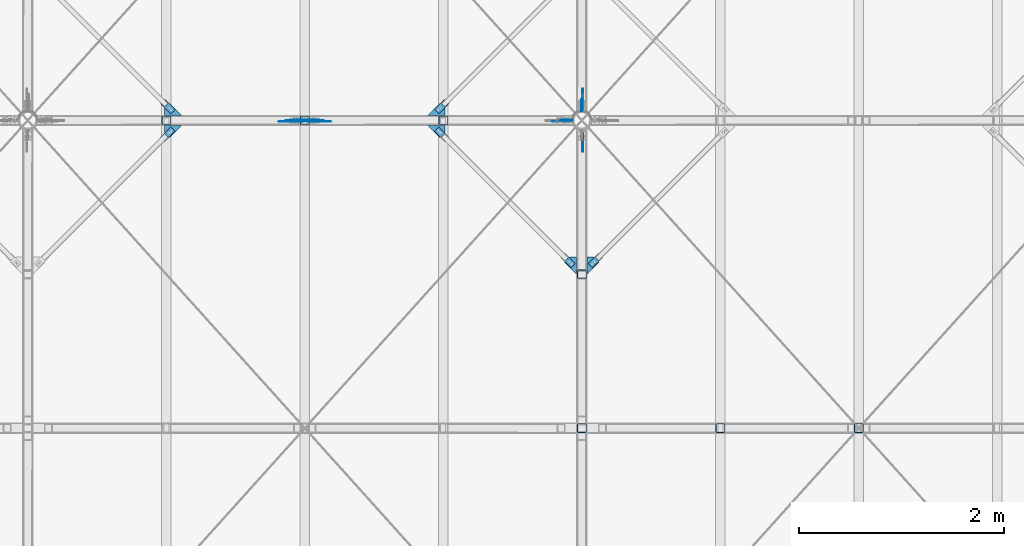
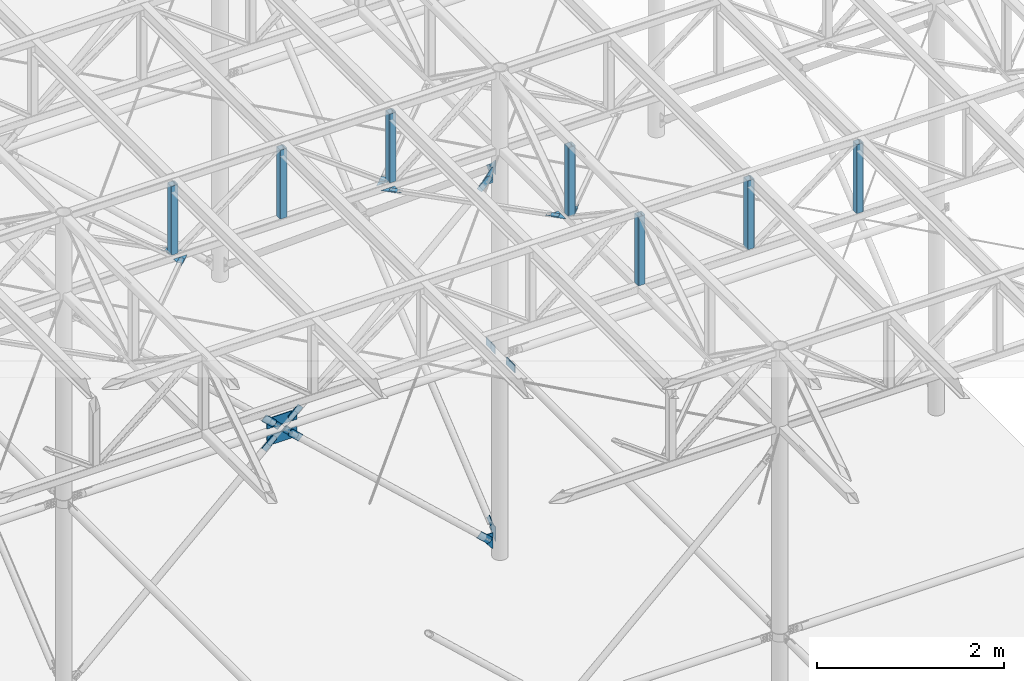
# One storey, part 81 of 132: 40 discrete accessories, 22 elements without a shape of their own.
"""IFC2X3 building model written with IfcOpenShell, lengths in millimetres."""

import ifcopenshell
import ifcopenshell.guid

model = None  # the IFC model being written
_history = None  # IfcOwnerHistory: only IFC2X3 demands one
_inside = {}  # id of a spatial element -> (the spatial element, [elements in it])
_under = {}  # id of a project, library or spatial element -> (it, [spatial elements below it])
_declared = {}  # id of a project -> (the project, [libraries it declares])
_typed = {}  # id of a type object -> (the type object, [elements of that type])
_made_of = {}  # id of a material, layer set ... -> (it, [elements and type objects made of it])


def new_model(schema):
    """Start an empty IFC model of exactly this schema.

    Asked for "IFC4X3", IfcOpenShell would pick the latest addendum, in which some entities
    have other attributes; the version numbers below select the first issue.
    IFC2X3 requires an IfcOwnerHistory on every rooted entity: one is made here for all.
    """
    global model, _history
    if schema == "IFC4X3":
        model = ifcopenshell.file(schema_version=(4, 3, 0, 0))
    else:
        model = ifcopenshell.file(schema=schema)
    _inside.clear()
    _under.clear()
    _declared.clear()
    _typed.clear()
    _made_of.clear()
    _history = None
    if model.schema == "IFC2X3":
        org = make("IfcOrganization", Name="unknown")
        user = make(
            "IfcPersonAndOrganization",
            ThePerson=make("IfcPerson", FamilyName="unknown"),
            TheOrganization=org,
        )
        app = make(
            "IfcApplication",
            ApplicationDeveloper=org,
            Version="unknown",
            ApplicationFullName="unknown",
            ApplicationIdentifier="unknown",
        )
        _history = make(
            "IfcOwnerHistory",
            OwningUser=user,
            OwningApplication=app,
            ChangeAction="ADDED",
            CreationDate=0,
        )
    return model


def make(cls, **values):
    """One entity of the class cls with the attributes given. An attribute that is None is left unset."""
    return model.create_entity(
        cls, **{name: value for name, value in values.items() if value is not None}
    )


def rooted(cls, **values):
    """An entity with a GlobalId (a new one), such as an element, a storey or a relation."""
    return make(cls, GlobalId=ifcopenshell.guid.new(), OwnerHistory=_history, **values)


def si_unit(unit_type, name, prefix=None):
    """IfcSIUnit, for example si_unit("LENGTHUNIT", "METRE", prefix="MILLI")."""
    return make("IfcSIUnit", UnitType=unit_type, Prefix=prefix, Name=name)


def assignment(units):
    """IfcUnitAssignment: the units of a project."""
    return None if units is None else make("IfcUnitAssignment", Units=units)


def point(xyz):
    """IfcCartesianPoint."""
    return None if xyz is None else make("IfcCartesianPoint", Coordinates=xyz)


def direction(xyz):
    """IfcDirection."""
    return None if xyz is None else make("IfcDirection", DirectionRatios=xyz)


def frame(location, z_axis=None, x_axis=None):
    """IfcAxis2Placement3D, a coordinate frame: its origin and axes. An axis left out is left unset."""
    return make(
        "IfcAxis2Placement3D",
        Location=point(location),
        Axis=direction(z_axis),
        RefDirection=direction(x_axis),
    )


def frame_2d(location, x_axis=None):
    """IfcAxis2Placement2D, a coordinate frame in the plane: its origin and x axis."""
    return make(
        "IfcAxis2Placement2D", Location=point(location), RefDirection=direction(x_axis)
    )


def origin_with_axes():
    """The frame at (0, 0, 0) with the z axis (0, 0, 1) and the x axis (1, 0, 0) written out."""
    return frame((0.0, 0.0, 0.0), z_axis=(0.0, 0.0, 1.0), x_axis=(1.0, 0.0, 0.0))


def origin_2d_with_axis():
    """The frame at (0, 0) in the plane with the x axis (1, 0) written out."""
    return frame_2d((0.0, 0.0), x_axis=(1.0, 0.0))


def place(relative_to, where):
    """IfcLocalPlacement: puts the frame where relative to a parent placement (None: the world)."""
    return make(
        "IfcLocalPlacement", PlacementRelTo=relative_to, RelativePlacement=where
    )


def context(
    kind, dimensions, precision=None, world=None, true_north=None, identifier=None
):
    """IfcGeometricRepresentationContext, for example the 3D "Model" context."""
    return make(
        "IfcGeometricRepresentationContext",
        ContextIdentifier=identifier,
        ContextType=kind,
        CoordinateSpaceDimension=dimensions,
        Precision=precision,
        WorldCoordinateSystem=world,
        TrueNorth=true_north,
    )


def subcontext(parent, identifier, kind, view, scale=None):
    """IfcGeometricRepresentationSubContext, for example "Body" below "Model"."""
    return make(
        "IfcGeometricRepresentationSubContext",
        ContextIdentifier=identifier,
        ContextType=kind,
        ParentContext=parent,
        TargetScale=scale,
        TargetView=view,
    )


def project(units=None, contexts=None):
    """IfcProject with its units and contexts."""
    return rooted(
        "IfcProject",
        Name="project",
        RepresentationContexts=contexts,
        UnitsInContext=assignment(units),
    )


def spatial(cls, under=None, at=None, **own):
    """A site, building, storey or space (cls), placed at a placement, below another one or the project."""
    s = rooted(cls, ObjectPlacement=at, **own)
    if under is not None:
        _under.setdefault(under.id(), (under, []))[1].append(s)
    return s


def polyline(points):
    """IfcPolyline through the points."""
    return make("IfcPolyline", Points=[point(p) for p in points])


def profile(cls, at=None, kind="AREA", **sizes):
    """A parametric profile (cls). Its sizes go by their IFC names, for example OverallWidth=200.0."""
    return make(cls, ProfileType=kind, Position=at, **sizes)


def rectangle(**sizes):
    """IfcRectangleProfileDef."""
    return profile("IfcRectangleProfileDef", **sizes)


def hollow_rectangle(**sizes):
    """IfcRectangleHollowProfileDef."""
    return profile("IfcRectangleHollowProfileDef", **sizes)


def outline(outer, holes=None, kind="AREA"):
    """IfcArbitraryClosedProfileDef: a profile drawn as a closed curve; with holes, ...WithVoids."""
    if holes is None:
        return make("IfcArbitraryClosedProfileDef", ProfileType=kind, OuterCurve=outer)
    return make(
        "IfcArbitraryProfileDefWithVoids",
        ProfileType=kind,
        OuterCurve=outer,
        InnerCurves=holes,
    )


def extrude(swept, where, along, depth):
    """IfcExtrudedAreaSolid: the profile swept, set in the frame where, extruded along a direction by depth."""
    return make(
        "IfcExtrudedAreaSolid",
        SweptArea=swept,
        Position=where,
        ExtrudedDirection=direction(along),
        Depth=depth,
    )


def boolean(op, a, b):
    """IfcBooleanResult of two solids."""
    return make("IfcBooleanResult", Operator=op, FirstOperand=a, SecondOperand=b)


def clip(a, b, op="DIFFERENCE"):
    """IfcBooleanClippingResult: the solid a cut by the half space b."""
    return make(
        "IfcBooleanClippingResult", Operator=op, FirstOperand=a, SecondOperand=b
    )


def halfspace(plane, agree):
    """IfcHalfSpaceSolid: all space on one side of the plane z = 0 of the frame plane."""
    return make(
        "IfcHalfSpaceSolid",
        BaseSurface=make("IfcPlane", Position=plane),
        AgreementFlag=agree,
    )


def shape(context_of_items, identifier, shape_type, items):
    """IfcShapeRepresentation: the items that make up one representation, for example the "Body"."""
    return make(
        "IfcShapeRepresentation",
        ContextOfItems=context_of_items,
        RepresentationIdentifier=identifier,
        RepresentationType=shape_type,
        Items=items,
    )


def material(Name=None, Category=None):
    """IfcMaterial."""
    return make("IfcMaterial", Name=Name, Category=Category)


def made_of(thing, what):
    """Note that an element or type object is made of a material, layer set ...; save() writes the relation."""
    if what is not None:
        _made_of.setdefault(what.id(), (what, []))[1].append(thing)
    return thing


def type_object(cls, material=None, **own):
    """A type object (cls), such as IfcWallType, which elements share."""
    return made_of(rooted(cls, **own), material)


def element(
    cls,
    number,
    at=None,
    inside=None,
    cuts=None,
    type_object=None,
    material=None,
    context=None,
    identifier="Body",
    shape_type=None,
    held_by="IfcProductDefinitionShape",
    body=None,
    shapes=None,
    **own,
):
    """One element of the class cls, such as IfcWall. Its Tag is "e" and its number.

    at: its placement. inside: the storey or other place that contains it. cuts: it is an
    opening in that element (IfcRelVoidsElement). A single representation is given by context,
    identifier, shape_type and body (its items); several are given by shapes. held_by: the class
    of the entity that holds the representations. save() writes the other relations.
    """
    e = rooted(cls, Tag="e%d" % number, ObjectPlacement=at, **own)
    if body is not None:
        shapes = [shape(context, identifier, shape_type, body)]
    if shapes is not None:
        e.Representation = make(held_by, Representations=shapes)
    if inside is not None:
        _inside.setdefault(inside.id(), (inside, []))[1].append(e)
    if cuts is not None:
        rooted(
            "IfcRelVoidsElement", RelatingBuildingElement=cuts, RelatedOpeningElement=e
        )
    if type_object is not None:
        _typed.setdefault(type_object.id(), (type_object, []))[1].append(e)
    return made_of(e, material)


def aggregate(whole, parts):
    """IfcRelAggregates: a whole, such as a stair, and the parts it consists of."""
    return rooted("IfcRelAggregates", RelatingObject=whole, RelatedObjects=parts)


def save(model, path):
    """Write the relations noted so far, then the file.

    IfcRelAggregates (storeys below a building ...), IfcRelContainedInSpatialStructure (elements
    in a storey), IfcRelDefinesByType, IfcRelAssociatesMaterial and IfcRelDeclares: one each for
    every whole, place, type object, material and project.
    """
    for whole, parts in _under.values():
        aggregate(whole, parts)
    for where, things in _inside.values():
        rooted(
            "IfcRelContainedInSpatialStructure",
            RelatedElements=things,
            RelatingStructure=where,
        )
    for kind, things in _typed.values():
        rooted("IfcRelDefinesByType", RelatedObjects=things, RelatingType=kind)
    for what, things in _made_of.values():
        rooted("IfcRelAssociatesMaterial", RelatedObjects=things, RelatingMaterial=what)
    for by, libraries in _declared.values():
        rooted("IfcRelDeclares", RelatingContext=by, RelatedDefinitions=libraries)
    model.write(path)


model = new_model("IFC2X3")

# Units and contexts
model_context = context("Model", 3, precision=1e-05, world=origin_with_axes())
body_context = subcontext(model_context, "Body", "Model", "MODEL_VIEW")
ifc_project = project(units=[si_unit("LENGTHUNIT", "METRE", prefix="MILLI"), si_unit("AREAUNIT", "SQUARE_METRE"), si_unit("VOLUMEUNIT", "CUBIC_METRE"), si_unit("MASSUNIT", "GRAM", prefix="KILO"), si_unit("TIMEUNIT", "SECOND"), si_unit("PLANEANGLEUNIT", "RADIAN"), si_unit("SOLIDANGLEUNIT", "STERADIAN"), si_unit("THERMODYNAMICTEMPERATUREUNIT", "DEGREE_CELSIUS"), si_unit("LUMINOUSINTENSITYUNIT", "LUMEN")], contexts=[model_context])

# Site, building, storey
site_placement = place(None, origin_with_axes())
site = spatial("IfcSite", under=ifc_project, at=site_placement, Name="Budowa", CompositionType="ELEMENT")
building_placement = place(site_placement, origin_with_axes())
building = spatial("IfcBuilding", under=site, at=building_placement, Name="Undefined", CompositionType="ELEMENT")
storey_placement = place(building_placement, origin_with_axes())
storey = spatial("IfcBuildingStorey", under=building, at=storey_placement, Name="Undefined", CompositionType="ELEMENT", Elevation=0.0)

# Assembly, discrete accessory
assembly_1_placement = place(storey_placement, origin_with_axes())
assembly_1 = element("IfcElementAssembly", 1, at=assembly_1_placement, inside=storey, Name="Steel Assembly", AssemblyPlace="NOTDEFINED", PredefinedType="RIGID_FRAME")
ifc_material = material(Name="STEEL/S235")
discrete_accessory_type_1 = type_object("IfcDiscreteAccessoryType", Name="BLACHA")
discrete_accessory_1_placement = place(assembly_1_placement, frame((14832.9999999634, 12120.951207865, 7723.25167813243), z_axis=(0.0, 0.639165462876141, -0.769069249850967), x_axis=(0.0, 0.769069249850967, 0.639165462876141)))
discrete_accessory_1 = element("IfcDiscreteAccessory", 2, at=discrete_accessory_1_placement, type_object=discrete_accessory_type_1, material=ifc_material, Name="BLACHA", ObjectType="BL8*86", context=body_context, shape_type="CSG", body=[
    boolean("DIFFERENCE", boolean("DIFFERENCE", extrude(rectangle(XDim=8.0, YDim=86.0, at=origin_2d_with_axis()), frame((190.000000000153, -3.63797880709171e-12, 3.30513394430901e-13), z_axis=(-1.0, 0.0, 0.0), x_axis=(0.0, -1.0, 0.0)), (0.0, 0.0, 1.0), 190.0), extrude(outline(polyline([(0.0, 0.0), (20.0000000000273, -3.63797880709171e-12), (5.45696821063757e-12, 20.0000000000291), (0.0, 0.0)])), frame((0.0, 6.50000013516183, -43.0), z_axis=(0.0, -1.0, 0.0), x_axis=(1.0, 0.0, 0.0)), (0.0, 0.0, 1.0), 13.0)), extrude(outline(polyline([(0.0, 0.0), (20.0000000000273, -3.63797880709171e-12), (5.45696821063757e-12, 20.0000000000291), (0.0, 0.0)])), frame((3.63797880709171e-12, -6.49999986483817, 43.0), z_axis=(0.0, 1.0, 0.0), x_axis=(1.0, 0.0, 0.0)), (0.0, 0.0, 1.0), 13.0)),
])
aggregate(assembly_1, [discrete_accessory_1])

assembly_2_placement = place(storey_placement, origin_with_axes())
assembly_2 = element("IfcElementAssembly", 3, at=assembly_2_placement, inside=storey, Name="Steel Assembly", AssemblyPlace="NOTDEFINED", PredefinedType="RIGID_FRAME")
discrete_accessory_2_placement = place(assembly_2_placement, frame((14825.000002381, 12088.9000000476, 7811.00054931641), z_axis=(1.0, 0.0, 0.0), x_axis=(0.0, 0.0, -1.0)))
discrete_accessory_2 = element("IfcDiscreteAccessory", 4, at=discrete_accessory_2_placement, type_object=discrete_accessory_type_1, material=ifc_material, Name="BLACHA", ObjectType="BL8*126", context=body_context, shape_type="SweptSolid", body=[
    extrude(outline(polyline([(0.0, 0.0), (188.000686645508, 0.0), (188.000686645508, 10.0), (60.999870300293, 126.000648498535), (3.18323145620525e-09, 76.0014114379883), (0.0, 0.0)])), frame((0.0, 0.0, -4.0), z_axis=(0.0, 0.0, 1.0), x_axis=(1.0, 0.0, 0.0)), (0.0, 0.0, 1.0), 8.0),
])

assembly_3_placement = place(storey_placement, origin_with_axes())
assembly_3 = element("IfcElementAssembly", 5, at=assembly_3_placement, inside=storey, Name="Steel Assembly", AssemblyPlace="NOTDEFINED", PredefinedType="RIGID_FRAME")
discrete_accessory_3_placement = place(assembly_3_placement, frame((14832.9999999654, 12120.9512117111, 12508.7489949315), z_axis=(0.0, -0.63916553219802, -0.769069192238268), x_axis=(0.0, 0.769069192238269, -0.639165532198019)))
discrete_accessory_3 = element("IfcDiscreteAccessory", 6, at=discrete_accessory_3_placement, type_object=discrete_accessory_type_1, material=ifc_material, Name="BLACHA", ObjectType="BL8*86", context=body_context, shape_type="CSG", body=[
    boolean("DIFFERENCE", boolean("DIFFERENCE", extrude(rectangle(XDim=8.0, YDim=86.0, at=origin_2d_with_axis()), frame((190.000000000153, -3.63797880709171e-12, 3.30513394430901e-13), z_axis=(-1.0, 0.0, 0.0), x_axis=(0.0, -1.0, 0.0)), (0.0, 0.0, 1.0), 190.0), extrude(outline(polyline([(0.0, 0.0), (20.0000000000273, -3.63797880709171e-12), (5.45696821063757e-12, 20.0000000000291), (0.0, 0.0)])), frame((0.0, 6.50000013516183, -43.0), z_axis=(0.0, -1.0, 0.0), x_axis=(1.0, 0.0, 0.0)), (0.0, 0.0, 1.0), 13.0)), extrude(outline(polyline([(0.0, 0.0), (20.0000000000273, -3.63797880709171e-12), (5.45696821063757e-12, 20.0000000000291), (0.0, 0.0)])), frame((3.63797880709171e-12, -6.49999986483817, 43.0), z_axis=(0.0, 1.0, 0.0), x_axis=(1.0, 0.0, 0.0)), (0.0, 0.0, 1.0), 13.0)),
])
aggregate(assembly_3, [discrete_accessory_3])

# Discrete accessory
discrete_accessory_4_placement = place(assembly_2_placement, frame((14825.000002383, 12088.9000000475, 12608.9999313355), z_axis=(1.0, 0.0, 0.0), x_axis=(0.0, 0.0, -1.0)))
discrete_accessory_4 = element("IfcDiscreteAccessory", 7, at=discrete_accessory_4_placement, type_object=discrete_accessory_type_1, material=ifc_material, Name="BLACHA", ObjectType="BL8*126", context=body_context, shape_type="SweptSolid", body=[
    extrude(outline(polyline([(0.0, 0.0), (187.999725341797, 0.0), (187.999725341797, 76.0014114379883), (126.999855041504, 126.000648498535), (0.0, 10.0), (0.0, 0.0)])), frame((0.0, 0.0, -4.0), z_axis=(0.0, 0.0, 1.0), x_axis=(1.0, 0.0, 0.0)), (0.0, 0.0, 1.0), 8.0),
])

discrete_accessory_5_placement = place(assembly_2_placement, frame((14736.1000002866, 11999.9990001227, 12407.0002670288), z_axis=(0.0, -1.0, 0.0), x_axis=(0.0, 0.0, 1.0)))
discrete_accessory_5 = element("IfcDiscreteAccessory", 8, at=discrete_accessory_5_placement, type_object=discrete_accessory_type_1, material=ifc_material, Name="BLACHA", ObjectType="BL8*126", context=body_context, shape_type="SweptSolid", body=[
    extrude(outline(polyline([(0.0, 0.0), (203.000061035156, 0.0), (203.000061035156, 10.0), (58.0005645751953, 125.999824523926), (-1.72803993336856e-10, 72.998420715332), (0.0, 0.0)])), frame((0.0, 0.0, -4.0), z_axis=(0.0, 0.0, 1.0), x_axis=(1.0, 0.0, 0.0)), (0.0, 0.0, 1.0), 8.0),
])

discrete_accessory_6_placement = place(assembly_2_placement, frame((14736.1000003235, 11999.9990001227, 7622.0004196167), z_axis=(0.0, -1.0, 0.0), x_axis=(0.0, 0.0, 1.0)))
discrete_accessory_6 = element("IfcDiscreteAccessory", 9, at=discrete_accessory_6_placement, type_object=discrete_accessory_type_1, material=ifc_material, Name="BLACHA", ObjectType="BL8*126", context=body_context, shape_type="SweptSolid", body=[
    extrude(outline(polyline([(0.0, 0.0), (203.000061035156, 0.0), (203.000076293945, 72.998420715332), (145.000457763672, 125.999824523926), (0.0, 10.0), (0.0, 0.0)])), frame((0.0, 0.0, -4.0), z_axis=(0.0, 0.0, 1.0), x_axis=(1.0, 0.0, 0.0)), (0.0, 0.0, 1.0), 8.0),
])

aggregate(assembly_2, [discrete_accessory_2, discrete_accessory_4, discrete_accessory_5, discrete_accessory_6])

# Assembly, discrete accessory
assembly_4_placement = place(storey_placement, origin_with_axes())
assembly_4 = element("IfcElementAssembly", 10, at=assembly_4_placement, inside=storey, Name="Steel Assembly", AssemblyPlace="NOTDEFINED", PredefinedType="RIGID_FRAME")
discrete_accessory_7_placement = place(assembly_4_placement, frame((12051.7643931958, 11989.999997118, 9989.80782337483), z_axis=(0.0, -1.0, 0.0), x_axis=(0.0395984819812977, 0.0, 0.999215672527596)))
discrete_accessory_7 = element("IfcDiscreteAccessory", 11, at=discrete_accessory_7_placement, type_object=discrete_accessory_type_1, material=ifc_material, Name="BLACHA", ObjectType="BL8*86", context=body_context, shape_type="SweptSolid", body=[
    extrude(outline(polyline([(0.0, 0.0), (28.2842712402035, 3.27418092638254e-11), (60.8111839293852, 32.5269126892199), (60.8111839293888, 60.8111839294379), (-59.3969688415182, 181.019332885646), (-120.20815277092, 120.208152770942), (0.0, 0.0)])), frame((0.0, 0.0, -4.0), z_axis=(0.0, 0.0, 1.0), x_axis=(1.0, 0.0, 0.0)), (0.0, 0.0, 1.0), 8.0),
])
aggregate(assembly_4, [discrete_accessory_7])

assembly_5_placement = place(storey_placement, origin_with_axes())
assembly_5 = element("IfcElementAssembly", 12, at=assembly_5_placement, inside=storey, Name="Steel Assembly", AssemblyPlace="NOTDEFINED", PredefinedType="RIGID_FRAME")
discrete_accessory_8_placement = place(assembly_5_placement, frame((12256.5937293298, 11989.999997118, 10052.9793451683), z_axis=(0.0, -1.0, 0.0), x_axis=(-0.999215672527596, 0.0, -0.0395984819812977)))
discrete_accessory_8 = element("IfcDiscreteAccessory", 13, at=discrete_accessory_8_placement, type_object=discrete_accessory_type_1, material=ifc_material, Name="BLACHA", ObjectType="BL8*86", context=body_context, shape_type="SweptSolid", body=[
    extrude(outline(polyline([(0.0, 0.0), (28.2842712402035, 3.27418092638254e-11), (60.8111839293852, 32.5269126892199), (60.8111839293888, 60.8111839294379), (-59.3969688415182, 181.019332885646), (-120.20815277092, 120.208152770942), (0.0, 0.0)])), frame((0.0, 0.0, -4.0), z_axis=(0.0, 0.0, 1.0), x_axis=(1.0, 0.0, 0.0)), (0.0, 0.0, 1.0), 8.0),
])

assembly_6_placement = place(storey_placement, origin_with_axes())
assembly_6 = element("IfcElementAssembly", 14, at=assembly_6_placement, inside=storey, Name="Steel Assembly", AssemblyPlace="NOTDEFINED", PredefinedType="RIGID_FRAME")
discrete_accessory_9_placement = place(assembly_6_placement, frame((12311.4051663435, 11997.999997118, 10071.5503790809), z_axis=(0.0, -1.0, 0.0), x_axis=(-1.0, 0.0, 0.0)))
discrete_accessory_9 = element("IfcDiscreteAccessory", 15, at=discrete_accessory_9_placement, type_object=discrete_accessory_type_1, material=ifc_material, Name="BLACHA", ObjectType="BL8*133", context=body_context, shape_type="SweptSolid", body=[
    extrude(outline(polyline([(0.0, 0.0), (372.807678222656, 0.0), (372.807678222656, 62.396900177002), (307.666687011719, 132.913940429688), (65.1409759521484, 132.913940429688), (0.0, 62.396900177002), (0.0, 0.0)])), frame((0.0, 0.0, -4.0), z_axis=(0.0, 0.0, 1.0), x_axis=(1.0, 0.0, 0.0)), (0.0, 0.0, 1.0), 8.0),
])

assembly_7_placement = place(storey_placement, origin_with_axes())
assembly_7 = element("IfcElementAssembly", 16, at=assembly_7_placement, inside=storey, Name="Steel Assembly", AssemblyPlace="NOTDEFINED", PredefinedType="RIGID_FRAME")
discrete_accessory_10_placement = place(assembly_7_placement, frame((11993.4089381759, 11989.9999968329, 10179.0214130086), z_axis=(0.0, -1.0, 0.0), x_axis=(0.999215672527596, 0.0, 0.0395984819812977)))
discrete_accessory_10 = element("IfcDiscreteAccessory", 17, at=discrete_accessory_10_placement, type_object=discrete_accessory_type_1, material=ifc_material, Name="BLACHA", ObjectType="BL8*86", context=body_context, shape_type="SweptSolid", body=[
    extrude(outline(polyline([(0.0, 0.0), (28.2842712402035, 3.27418092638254e-11), (60.8111839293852, 32.5269126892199), (60.8111839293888, 60.8111839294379), (-59.3969688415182, 181.019332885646), (-120.20815277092, 120.208152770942), (0.0, 0.0)])), frame((0.0, 0.0, -4.0), z_axis=(0.0, 0.0, 1.0), x_axis=(1.0, 0.0, 0.0)), (0.0, 0.0, 1.0), 8.0),
])
aggregate(assembly_7, [discrete_accessory_10])

assembly_8_placement = place(storey_placement, origin_with_axes())
assembly_8 = element("IfcElementAssembly", 18, at=assembly_8_placement, inside=storey, Name="Steel Assembly", AssemblyPlace="NOTDEFINED", PredefinedType="RIGID_FRAME")
discrete_accessory_11_placement = place(assembly_8_placement, frame((12198.2382742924, 11989.9999968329, 10242.192930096), z_axis=(0.0, -1.0, 0.0), x_axis=(-0.0395984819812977, 0.0, -0.999215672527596)))
discrete_accessory_11 = element("IfcDiscreteAccessory", 19, at=discrete_accessory_11_placement, type_object=discrete_accessory_type_1, material=ifc_material, Name="BLACHA", ObjectType="BL8*86", context=body_context, shape_type="SweptSolid", body=[
    extrude(outline(polyline([(0.0, 0.0), (28.2842712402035, 3.27418092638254e-11), (60.8111839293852, 32.5269126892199), (60.8111839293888, 60.8111839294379), (-59.3969688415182, 181.019332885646), (-120.20815277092, 120.208152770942), (0.0, 0.0)])), frame((0.0, 0.0, -4.0), z_axis=(0.0, 0.0, 1.0), x_axis=(1.0, 0.0, 0.0)), (0.0, 0.0, 1.0), 8.0),
])

# Discrete accessory
discrete_accessory_12_placement = place(assembly_6_placement, frame((11938.5974989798, 11997.9999968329, 10160.4503767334), z_axis=(0.0, -1.0, 0.0), x_axis=(1.0, 0.0, 0.0)))
discrete_accessory_12 = element("IfcDiscreteAccessory", 20, at=discrete_accessory_12_placement, type_object=discrete_accessory_type_1, material=ifc_material, Name="BLACHA", ObjectType="BL8*133", context=body_context, shape_type="SweptSolid", body=[
    extrude(outline(polyline([(0.0, 0.0), (372.807678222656, 0.0), (372.807678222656, 62.396900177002), (307.666687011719, 132.913940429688), (65.1409759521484, 132.913940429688), (0.0, 62.396900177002), (0.0, 0.0)])), frame((0.0, 0.0, -4.0), z_axis=(0.0, 0.0, 1.0), x_axis=(1.0, 0.0, 0.0)), (0.0, 0.0, 1.0), 8.0),
])

aggregate(assembly_6, [discrete_accessory_9, discrete_accessory_12])

discrete_accessory_13_placement = place(assembly_8_placement, frame((14702.6899626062, 11989.9999976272, 12497.1715521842), z_axis=(-0.678551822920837, 0.0, 0.734552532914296), x_axis=(-0.734552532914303, 0.0, -0.67855182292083)))
discrete_accessory_13 = element("IfcDiscreteAccessory", 21, at=discrete_accessory_13_placement, type_object=discrete_accessory_type_1, material=ifc_material, Name="BLACHA", ObjectType="BL8*86", context=body_context, shape_type="CSG", body=[
    boolean("DIFFERENCE", boolean("DIFFERENCE", extrude(rectangle(XDim=8.0, YDim=86.0, at=origin_2d_with_axis()), frame((190.000000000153, -3.63797880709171e-12, 3.30513394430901e-13), z_axis=(-1.0, 0.0, 0.0), x_axis=(0.0, -1.0, 0.0)), (0.0, 0.0, 1.0), 190.0), extrude(outline(polyline([(0.0, 0.0), (20.0000000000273, -3.63797880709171e-12), (5.45696821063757e-12, 20.0000000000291), (0.0, 0.0)])), frame((-1.81898940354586e-12, -6.50000242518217, -42.9999999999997), z_axis=(0.0, 1.0, 0.0), x_axis=(0.0, 0.0, 1.0)), (0.0, 0.0, 1.0), 13.0)), extrude(outline(polyline([(0.0, 0.0), (20.0000000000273, -3.63797880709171e-12), (5.45696821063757e-12, 20.0000000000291), (0.0, 0.0)])), frame((-1.81898940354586e-12, 6.49999757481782, 42.9999999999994), z_axis=(0.0, -1.0, 0.0), x_axis=(0.0, 0.0, -1.0)), (0.0, 0.0, 1.0), 13.0)),
])

aggregate(assembly_8, [discrete_accessory_11, discrete_accessory_13])

discrete_accessory_14_placement = place(assembly_5_placement, frame((14702.689963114, 11989.9999973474, 7734.82920317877), z_axis=(0.678551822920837, 0.0, 0.734552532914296), x_axis=(-0.734552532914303, 0.0, 0.67855182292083)))
discrete_accessory_14 = element("IfcDiscreteAccessory", 22, at=discrete_accessory_14_placement, type_object=discrete_accessory_type_1, material=ifc_material, Name="BLACHA", ObjectType="BL8*86", context=body_context, shape_type="CSG", body=[
    boolean("DIFFERENCE", boolean("DIFFERENCE", extrude(rectangle(XDim=8.0, YDim=86.0, at=origin_2d_with_axis()), frame((190.000000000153, -3.63797880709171e-12, 3.30513394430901e-13), z_axis=(-1.0, 0.0, 0.0), x_axis=(0.0, -1.0, 0.0)), (0.0, 0.0, 1.0), 190.0), extrude(outline(polyline([(0.0, 0.0), (20.0000000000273, -3.63797880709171e-12), (5.45696821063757e-12, 20.0000000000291), (0.0, 0.0)])), frame((-1.81898940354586e-12, 6.49999757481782, 42.9999999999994), z_axis=(0.0, -1.0, 0.0), x_axis=(0.0, 0.0, -1.0)), (0.0, 0.0, 1.0), 13.0)), extrude(outline(polyline([(0.0, 0.0), (20.0000000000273, -3.63797880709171e-12), (5.45696821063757e-12, 20.0000000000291), (0.0, 0.0)])), frame((-1.81898940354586e-12, -6.50000242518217, -42.9999999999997), z_axis=(0.0, 1.0, 0.0), x_axis=(0.0, 0.0, 1.0)), (0.0, 0.0, 1.0), 13.0)),
])

aggregate(assembly_5, [discrete_accessory_8, discrete_accessory_14])

# Assembly, discrete accessory
assembly_9_placement = place(storey_placement, origin_with_axes())
assembly_9 = element("IfcElementAssembly", 23, at=assembly_9_placement, inside=storey, Name="Steel Assembly", AssemblyPlace="NOTDEFINED", PredefinedType="RIGID_FRAME")
discrete_accessory_15_placement = place(assembly_9_placement, frame((14832.9999969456, 12127.907905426, 10116.0003779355), z_axis=(-1.0, 0.0, 0.0), x_axis=(0.0, 1.0, 0.0)))
discrete_accessory_15 = element("IfcDiscreteAccessory", 24, at=discrete_accessory_15_placement, type_object=discrete_accessory_type_1, material=ifc_material, Name="BLACHA", ObjectType="BL8*100", context=body_context, shape_type="SweptSolid", body=[
    extrude(outline(polyline([(0.0, 50.0), (180.0, 50.0), (180.0, -50.0), (0.0, -50.0), (0.0, 50.0)])), frame((0.0, 0.0, -4.0), z_axis=(0.0, 0.0, 1.0), x_axis=(1.0, 0.0, 0.0)), (0.0, 0.0, 1.0), 8.0),
])
aggregate(assembly_9, [discrete_accessory_15])

assembly_10_placement = place(storey_placement, origin_with_axes())
assembly_10 = element("IfcElementAssembly", 25, at=assembly_10_placement, inside=storey, Name="Steel Assembly", AssemblyPlace="NOTDEFINED", PredefinedType="RIGID_FRAME")
discrete_accessory_16_placement = place(assembly_10_placement, frame((14824.9999969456, 12097.9956434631, 10166.0003762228), z_axis=(1.0, 0.0, 0.0), x_axis=(0.0, 0.0, -1.0)))
discrete_accessory_16 = element("IfcDiscreteAccessory", 26, at=discrete_accessory_16_placement, type_object=discrete_accessory_type_1, material=ifc_material, Name="BLACHA", ObjectType="BL8*90", context=body_context, shape_type="SweptSolid", body=[
    extrude(outline(polyline([(0.0, 0.0), (100.0, 0.0), (100.0, 89.9122619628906), (0.0, 89.9122619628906), (0.0, 0.0)])), frame((0.0, 0.0, -4.0), z_axis=(0.0, 0.0, 1.0), x_axis=(1.0, 0.0, 0.0)), (0.0, 0.0, 1.0), 8.0),
])
aggregate(assembly_10, [discrete_accessory_16])

assembly_11_placement = place(storey_placement, origin_with_axes())
assembly_11 = element("IfcElementAssembly", 27, at=assembly_11_placement, inside=storey, Name="Steel Assembly", AssemblyPlace="NOTDEFINED", PredefinedType="RIGID_FRAME")
discrete_accessory_17_placement = place(assembly_11_placement, frame((14832.9999972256, 11872.0920947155, 10116.0003779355), z_axis=(-1.0, 0.0, 0.0), x_axis=(0.0, -1.0, 0.0)))
discrete_accessory_17 = element("IfcDiscreteAccessory", 28, at=discrete_accessory_17_placement, type_object=discrete_accessory_type_1, material=ifc_material, Name="BLACHA", ObjectType="BL8*100", context=body_context, shape_type="SweptSolid", body=[
    extrude(outline(polyline([(180.0, -50.0), (0.0, -50.0), (0.0, 50.0), (180.0, 50.0), (180.0, -50.0)])), frame((0.0, 0.0, -4.0), z_axis=(0.0, 0.0, 1.0), x_axis=(1.0, 0.0, 0.0)), (0.0, 0.0, 1.0), 8.0),
])
aggregate(assembly_11, [discrete_accessory_17])

assembly_12_placement = place(storey_placement, origin_with_axes())
assembly_12 = element("IfcElementAssembly", 29, at=assembly_12_placement, inside=storey, Name="Steel Assembly", AssemblyPlace="NOTDEFINED", PredefinedType="RIGID_FRAME")
discrete_accessory_18_placement = place(assembly_12_placement, frame((12156.0118626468, 11991.9999977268, 10087.3540261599), z_axis=(-0.67855182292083, 0.0, -0.734552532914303), x_axis=(0.734552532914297, 0.0, -0.678551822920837)))
discrete_accessory_18 = element("IfcDiscreteAccessory", 30, at=discrete_accessory_18_placement, type_object=discrete_accessory_type_1, material=ifc_material, Name="BLACHA", ObjectType="BL8*69", context=body_context, shape_type="SweptSolid", body=[
    extrude(rectangle(XDim=8.0, YDim=69.0, at=origin_2d_with_axis()), frame((149.999999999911, 0.0, 0.0), z_axis=(-1.0, 0.0, 0.0), x_axis=(0.0, -1.0, 0.0)), (0.0, 0.0, 1.0), 150.0),
])
aggregate(assembly_12, [discrete_accessory_18])

assembly_13_placement = place(storey_placement, origin_with_axes())
assembly_13 = element("IfcElementAssembly", 31, at=assembly_13_placement, inside=storey, Name="Steel Assembly", AssemblyPlace="NOTDEFINED", PredefinedType="RIGID_FRAME")
discrete_accessory_19_placement = place(assembly_13_placement, frame((12181.529211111, 11999.9999977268, 10128.256469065), z_axis=(0.0, -1.0, 0.0), x_axis=(-0.734552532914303, 0.0, -0.67855182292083)))
discrete_accessory_19 = element("IfcDiscreteAccessory", 32, at=discrete_accessory_19_placement, type_object=discrete_accessory_type_1, material=ifc_material, Name="BLACHA", ObjectType="BL8*87", context=body_context, shape_type="SweptSolid", body=[
    extrude(outline(polyline([(0.0, 0.0), (87.1330947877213, 3.63797880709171e-12), (78.7522506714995, 105.573730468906), (-3.63797880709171e-12, 99.3220748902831), (0.0, 0.0)])), frame((0.0, 0.0, -4.0), z_axis=(0.0, 0.0, 1.0), x_axis=(1.0, 0.0, 0.0)), (0.0, 0.0, 1.0), 8.0),
])

assembly_14_placement = place(storey_placement, origin_with_axes())
assembly_14 = element("IfcElementAssembly", 33, at=assembly_14_placement, inside=storey, Name="Steel Assembly", AssemblyPlace="NOTDEFINED", PredefinedType="RIGID_FRAME")
discrete_accessory_20_placement = place(assembly_14_placement, frame((12093.9908069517, 11991.9999975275, 10144.6467300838), z_axis=(0.678551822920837, 0.0, 0.734552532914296), x_axis=(-0.734552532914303, 0.0, 0.67855182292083)))
discrete_accessory_20 = element("IfcDiscreteAccessory", 34, at=discrete_accessory_20_placement, type_object=discrete_accessory_type_1, material=ifc_material, Name="BLACHA", ObjectType="BL8*69", context=body_context, shape_type="SweptSolid", body=[
    extrude(rectangle(XDim=8.0, YDim=69.0, at=origin_2d_with_axis()), frame((149.999999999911, 0.0, 0.0), z_axis=(-1.0, 0.0, 0.0), x_axis=(0.0, -1.0, 0.0)), (0.0, 0.0, 1.0), 150.0),
])
aggregate(assembly_14, [discrete_accessory_20])

# Discrete accessory
discrete_accessory_21_placement = place(assembly_13_placement, frame((12068.4734567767, 11999.9999975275, 10103.7442853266), z_axis=(0.0, -1.0, 0.0), x_axis=(0.734552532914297, 0.0, 0.678551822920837)))
discrete_accessory_21 = element("IfcDiscreteAccessory", 35, at=discrete_accessory_21_placement, type_object=discrete_accessory_type_1, material=ifc_material, Name="BLACHA", ObjectType="BL8*87", context=body_context, shape_type="SweptSolid", body=[
    extrude(outline(polyline([(0.0, 0.0), (87.1330947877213, 3.63797880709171e-12), (78.7522506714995, 105.573730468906), (-3.63797880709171e-12, 99.3220748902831), (0.0, 0.0)])), frame((0.0, 0.0, -4.0), z_axis=(0.0, 0.0, 1.0), x_axis=(1.0, 0.0, 0.0)), (0.0, 0.0, 1.0), 8.0),
])

aggregate(assembly_13, [discrete_accessory_19, discrete_accessory_21])

# Assembly, discrete accessory
assembly_15_placement = place(storey_placement, origin_with_axes())
assembly_15 = element("IfcElementAssembly", 36, at=assembly_15_placement, inside=storey, Name="Steel Assembly", AssemblyPlace="NOTDEFINED", PredefinedType="RIGID_FRAME")
discrete_accessory_22_placement = place(assembly_15_placement, frame((10719.3786418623, 12162.9949513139, 12830.0), z_axis=(0.0, 0.0, 1.0), x_axis=(0.707106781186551, -0.707106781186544, 0.0)))
discrete_accessory_22 = element("IfcDiscreteAccessory", 37, at=discrete_accessory_22_placement, type_object=discrete_accessory_type_1, material=ifc_material, Name="BLACHA", ObjectType="BL6*60", context=body_context, shape_type="SweptSolid", body=[
    extrude(outline(polyline([(0.0, 0.0), (139.99999999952, -6.2755134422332e-10), (139.99999999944, 59.9999999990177), (0.0, 60.0), (-8.00355337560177e-11, 54.9999999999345), (49.9999999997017, 54.9999999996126), (49.9999999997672, 4.99999999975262), (-8.73114913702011e-11, 5.00000000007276), (0.0, 0.0)])), frame((0.0, 0.0, -3.0), z_axis=(0.0, 0.0, 1.0), x_axis=(1.0, 0.0, 0.0)), (0.0, 0.0, 1.0), 6.0),
])
aggregate(assembly_15, [discrete_accessory_22])

assembly_16_placement = place(storey_placement, origin_with_axes())
assembly_16 = element("IfcElementAssembly", 38, at=assembly_16_placement, inside=storey, Name="Steel Assembly", AssemblyPlace="NOTDEFINED", PredefinedType="RIGID_FRAME")
discrete_accessory_23_placement = place(assembly_16_placement, frame((10758.2695167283, 12050.000000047, 12824.0), z_axis=(0.0, 0.0, 1.0), x_axis=(1.0, 0.0, 0.0)))
discrete_accessory_23 = element("IfcDiscreteAccessory", 39, at=discrete_accessory_23_placement, type_object=discrete_accessory_type_1, material=ifc_material, Name="BLACHA", ObjectType="BL6*117", context=body_context, shape_type="SweptSolid", body=[
    extrude(outline(polyline([(0.0, 0.0), (166.027954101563, 0.0), (49.4974746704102, 116.530487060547), (0.0, 67.0330123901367), (0.0, 0.0)])), frame((0.0, 0.0, -3.0), z_axis=(0.0, 0.0, 1.0), x_axis=(1.0, 0.0, 0.0)), (0.0, 0.0, 1.0), 6.0),
])

assembly_17_placement = place(storey_placement, origin_with_axes())
assembly_17 = element("IfcElementAssembly", 40, at=assembly_17_placement, inside=storey, Name="Steel Assembly", AssemblyPlace="NOTDEFINED", PredefinedType="RIGID_FRAME")
discrete_accessory_24_placement = place(assembly_17_placement, frame((10762.0050486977, 11794.5786419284, 12830.0), z_axis=(0.0, 0.0, 1.0), x_axis=(0.707106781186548, 0.707106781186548, 0.0)))
discrete_accessory_24 = element("IfcDiscreteAccessory", 41, at=discrete_accessory_24_placement, type_object=discrete_accessory_type_1, material=ifc_material, Name="BLACHA", ObjectType="BL6*60", context=body_context, shape_type="SweptSolid", body=[
    extrude(outline(polyline([(0.0, 0.0), (139.99999999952, -6.2755134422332e-10), (139.99999999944, 59.9999999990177), (0.0, 60.0), (-8.00355337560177e-11, 54.9999999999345), (49.9999999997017, 54.9999999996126), (49.9999999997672, 4.99999999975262), (-8.73114913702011e-11, 5.00000000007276), (0.0, 0.0)])), frame((0.0, 0.0, -3.0), z_axis=(0.0, 0.0, 1.0), x_axis=(1.0, 0.0, 0.0)), (0.0, 0.0, 1.0), 6.0),
])
aggregate(assembly_17, [discrete_accessory_24])

# Discrete accessory
discrete_accessory_25_placement = place(assembly_16_placement, frame((10924.4974746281, 11950.000000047, 12824.0), z_axis=(0.0, 0.0, 1.0), x_axis=(-1.0, 0.0, 0.0)))
discrete_accessory_25 = element("IfcDiscreteAccessory", 42, at=discrete_accessory_25_placement, type_object=discrete_accessory_type_1, material=ifc_material, Name="BLACHA", ObjectType="BL6*117", context=body_context, shape_type="SweptSolid", body=[
    extrude(outline(polyline([(0.0, 0.0), (166.027954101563, 0.0), (166.027954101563, 67.0330123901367), (116.530487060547, 116.530487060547), (0.0, 0.0)])), frame((0.0, 0.0, -3.0), z_axis=(0.0, 0.0, 1.0), x_axis=(1.0, 0.0, 0.0)), (0.0, 0.0, 1.0), 6.0),
])

# Assembly, discrete accessory
assembly_18_placement = place(storey_placement, origin_with_axes())
assembly_18 = element("IfcElementAssembly", 43, at=assembly_18_placement, inside=storey, Name="Steel Assembly", AssemblyPlace="NOTDEFINED", PredefinedType="RIGID_FRAME")
discrete_accessory_26_placement = place(assembly_18_placement, frame((14987.9949512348, 10705.4213581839, 12830.0), z_axis=(0.0, 0.0, 1.0), x_axis=(-0.70710678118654, -0.707106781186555, 0.0)))
discrete_accessory_26 = element("IfcDiscreteAccessory", 44, at=discrete_accessory_26_placement, type_object=discrete_accessory_type_1, material=ifc_material, Name="BLACHA", ObjectType="BL6*60", context=body_context, shape_type="SweptSolid", body=[
    extrude(outline(polyline([(0.0, 0.0), (139.99999999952, -6.2755134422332e-10), (139.99999999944, 59.9999999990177), (0.0, 60.0), (-8.00355337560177e-11, 54.9999999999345), (49.9999999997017, 54.9999999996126), (49.9999999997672, 4.99999999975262), (-8.73114913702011e-11, 5.00000000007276), (0.0, 0.0)])), frame((0.0, 0.0, -3.0), z_axis=(0.0, 0.0, 1.0), x_axis=(1.0, 0.0, 0.0)), (0.0, 0.0, 1.0), 6.0),
])
aggregate(assembly_18, [discrete_accessory_26])

assembly_19_placement = place(storey_placement, origin_with_axes())
assembly_19 = element("IfcElementAssembly", 45, at=assembly_19_placement, inside=storey, Name="Steel Assembly", AssemblyPlace="NOTDEFINED", PredefinedType="RIGID_FRAME")
discrete_accessory_27_placement = place(assembly_19_placement, frame((14874.999999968, 10666.5304833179, 12824.0), z_axis=(0.0, 0.0, 1.0), x_axis=(0.0, -1.0, 0.0)))
discrete_accessory_27 = element("IfcDiscreteAccessory", 46, at=discrete_accessory_27_placement, type_object=discrete_accessory_type_1, material=ifc_material, Name="BLACHA", ObjectType="BL6*117", context=body_context, shape_type="SweptSolid", body=[
    extrude(outline(polyline([(0.0, 0.0), (166.027954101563, 0.0), (49.4974746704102, 116.530487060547), (0.0, 67.0330123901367), (0.0, 0.0)])), frame((0.0, 0.0, -3.0), z_axis=(0.0, 0.0, 1.0), x_axis=(1.0, 0.0, 0.0)), (0.0, 0.0, 1.0), 6.0),
])

assembly_20_placement = place(storey_placement, origin_with_axes())
assembly_20 = element("IfcElementAssembly", 47, at=assembly_20_placement, inside=storey, Name="Steel Assembly", AssemblyPlace="NOTDEFINED", PredefinedType="RIGID_FRAME")
discrete_accessory_28_placement = place(assembly_20_placement, frame((13488.1949511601, 12205.4213581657, 12830.0), z_axis=(0.0, 0.0, 1.0), x_axis=(-0.70710678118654, -0.707106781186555, 0.0)))
discrete_accessory_28 = element("IfcDiscreteAccessory", 48, at=discrete_accessory_28_placement, type_object=discrete_accessory_type_1, material=ifc_material, Name="BLACHA", ObjectType="BL6*60", context=body_context, shape_type="SweptSolid", body=[
    extrude(outline(polyline([(0.0, 0.0), (139.99999999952, -6.2755134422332e-10), (139.99999999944, 59.9999999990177), (0.0, 60.0), (-8.00355337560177e-11, 54.9999999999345), (49.9999999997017, 54.9999999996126), (49.9999999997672, 4.99999999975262), (-8.73114913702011e-11, 5.00000000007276), (0.0, 0.0)])), frame((0.0, 0.0, -3.0), z_axis=(0.0, 0.0, 1.0), x_axis=(1.0, 0.0, 0.0)), (0.0, 0.0, 1.0), 6.0),
])
aggregate(assembly_20, [discrete_accessory_28])

# Discrete accessory
discrete_accessory_29_placement = place(assembly_16_placement, frame((13325.7025252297, 12050.000000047, 12824.0), z_axis=(0.0, 0.0, 1.0), x_axis=(1.0, 0.0, 0.0)))
discrete_accessory_29 = element("IfcDiscreteAccessory", 49, at=discrete_accessory_29_placement, type_object=discrete_accessory_type_1, material=ifc_material, Name="BLACHA", ObjectType="BL6*117", context=body_context, shape_type="SweptSolid", body=[
    extrude(outline(polyline([(0.0, 0.0), (166.027954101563, 0.0), (166.027954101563, 67.0330123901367), (116.530487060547, 116.530487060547), (0.0, 0.0)])), frame((0.0, 0.0, -3.0), z_axis=(0.0, 0.0, 1.0), x_axis=(1.0, 0.0, 0.0)), (0.0, 0.0, 1.0), 6.0),
])

# Assembly, discrete accessory
assembly_21_placement = place(storey_placement, origin_with_axes())
assembly_21 = element("IfcElementAssembly", 50, at=assembly_21_placement, inside=storey, Name="Steel Assembly", AssemblyPlace="NOTDEFINED", PredefinedType="RIGID_FRAME")
discrete_accessory_30_placement = place(assembly_21_placement, frame((13530.421358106, 11837.0050487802, 12830.0), z_axis=(0.0, 0.0, 1.0), x_axis=(-0.707106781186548, 0.707106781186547, 0.0)))
discrete_accessory_30 = element("IfcDiscreteAccessory", 51, at=discrete_accessory_30_placement, type_object=discrete_accessory_type_1, material=ifc_material, Name="BLACHA", ObjectType="BL6*60", context=body_context, shape_type="SweptSolid", body=[
    extrude(outline(polyline([(0.0, 0.0), (139.99999999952, -6.2755134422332e-10), (139.99999999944, 59.9999999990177), (0.0, 60.0), (-8.00355337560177e-11, 54.9999999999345), (49.9999999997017, 54.9999999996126), (49.9999999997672, 4.99999999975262), (-8.73114913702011e-11, 5.00000000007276), (0.0, 0.0)])), frame((0.0, 0.0, -3.0), z_axis=(0.0, 0.0, 1.0), x_axis=(1.0, 0.0, 0.0)), (0.0, 0.0, 1.0), 6.0),
])

# Discrete accessory
discrete_accessory_31_placement = place(assembly_16_placement, frame((13491.53048324, 11950.000000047, 12824.0), z_axis=(0.0, 0.0, 1.0), x_axis=(-1.0, 0.0, 0.0)))
discrete_accessory_31 = element("IfcDiscreteAccessory", 52, at=discrete_accessory_31_placement, type_object=discrete_accessory_type_1, material=ifc_material, Name="BLACHA", ObjectType="BL6*117", context=body_context, shape_type="SweptSolid", body=[
    extrude(outline(polyline([(0.0, 0.0), (166.027954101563, 0.0), (49.4974746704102, 116.530487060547), (0.0, 67.0330123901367), (0.0, 0.0)])), frame((0.0, 0.0, -3.0), z_axis=(0.0, 0.0, 1.0), x_axis=(1.0, 0.0, 0.0)), (0.0, 0.0, 1.0), 6.0),
])

discrete_accessory_32_placement = place(assembly_21_placement, frame((14619.5786418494, 10662.9949512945, 12830.0), z_axis=(0.0, 0.0, 1.0), x_axis=(0.707106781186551, -0.707106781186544, 0.0)))
discrete_accessory_32 = element("IfcDiscreteAccessory", 53, at=discrete_accessory_32_placement, type_object=discrete_accessory_type_1, material=ifc_material, Name="BLACHA", ObjectType="BL6*60", context=body_context, shape_type="SweptSolid", body=[
    extrude(outline(polyline([(0.0, 0.0), (139.99999999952, -6.2755134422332e-10), (139.99999999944, 59.9999999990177), (0.0, 60.0), (-8.00355337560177e-11, 54.9999999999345), (49.9999999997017, 54.9999999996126), (49.9999999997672, 4.99999999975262), (-8.73114913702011e-11, 5.00000000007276), (0.0, 0.0)])), frame((0.0, 0.0, -3.0), z_axis=(0.0, 0.0, 1.0), x_axis=(1.0, 0.0, 0.0)), (0.0, 0.0, 1.0), 6.0),
])

aggregate(assembly_21, [discrete_accessory_30, discrete_accessory_32])

discrete_accessory_33_placement = place(assembly_19_placement, frame((14774.999999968, 10500.502525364, 12824.0), z_axis=(0.0, 0.0, 1.0), x_axis=(0.0, 1.0, 0.0)))
discrete_accessory_33 = element("IfcDiscreteAccessory", 54, at=discrete_accessory_33_placement, type_object=discrete_accessory_type_1, material=ifc_material, Name="BLACHA", ObjectType="BL6*117", context=body_context, shape_type="SweptSolid", body=[
    extrude(outline(polyline([(0.0, 0.0), (166.027954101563, 0.0), (166.027954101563, 67.0330123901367), (116.530487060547, 116.530487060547), (0.0, 0.0)])), frame((0.0, 0.0, -3.0), z_axis=(0.0, 0.0, 1.0), x_axis=(1.0, 0.0, 0.0)), (0.0, 0.0, 1.0), 6.0),
])

# Assembly, discrete accessories
assembly_22_placement = place(storey_placement, origin_with_axes())
assembly_22 = element("IfcElementAssembly", 55, at=assembly_22_placement, inside=storey, Name="Steel Assembly", AssemblyPlace="NOTDEFINED", PredefinedType="RIGID_FRAME")
discrete_accessory_type_2 = type_object("IfcDiscreteAccessoryType", Name="BEAM")
discrete_accessory_34_placement = place(assembly_22_placement, frame((16174.9999999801, 9000.00000004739, 13780.0), z_axis=(0.0, -1.0, 0.0), x_axis=(0.0, 0.0, -1.0)))
discrete_accessory_34 = element("IfcDiscreteAccessory", 56, at=discrete_accessory_34_placement, type_object=discrete_accessory_type_2, material=ifc_material, Name="BEAM", ObjectType="SHS90*6", context=body_context, shape_type="Clipping", body=[
    clip(clip(extrude(hollow_rectangle(XDim=90.0, YDim=90.0, WallThickness=6.0, InnerFilletRadius=6.0, OuterFilletRadius=12.0, at=origin_2d_with_axis()), frame((900.0, 0.0, 0.0), z_axis=(-1.0, 0.0, 0.0), x_axis=(0.0, -1.0, 0.0)), (0.0, 0.0, 1.0), 900.0), halfspace(frame((900.0, 0.0, 1000.0), z_axis=(-1.0, 0.0, 0.0), x_axis=(0.0, -1.0, 0.0)), True)), halfspace(frame((0.0, 0.0, 1000.0), z_axis=(1.0, 0.0, 0.0), x_axis=(0.0, 1.0, 0.0)), True)),
])
discrete_accessory_35_placement = place(assembly_22_placement, frame((17524.9999999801, 9000.00000004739, 13780.0), z_axis=(0.0, -1.0, 0.0), x_axis=(0.0, 0.0, -1.0)))
discrete_accessory_35 = element("IfcDiscreteAccessory", 57, at=discrete_accessory_35_placement, type_object=discrete_accessory_type_2, material=ifc_material, Name="BEAM", ObjectType="SHS90*6", context=body_context, shape_type="Clipping", body=[
    clip(clip(extrude(hollow_rectangle(XDim=90.0, YDim=90.0, WallThickness=6.0, InnerFilletRadius=6.0, OuterFilletRadius=12.0, at=origin_2d_with_axis()), frame((900.0, 0.0, 0.0), z_axis=(-1.0, 0.0, 0.0), x_axis=(0.0, -1.0, 0.0)), (0.0, 0.0, 1.0), 900.0), halfspace(frame((900.0, 0.0, 1000.0), z_axis=(-1.0, 0.0, 0.0), x_axis=(0.0, -1.0, 0.0)), True)), halfspace(frame((0.0, 0.0, 1000.0), z_axis=(1.0, 0.0, 0.0), x_axis=(0.0, 1.0, 0.0)), True)),
])
aggregate(assembly_22, [discrete_accessory_34, discrete_accessory_35])

# Discrete accessory
discrete_accessory_36_placement = place(assembly_19_placement, frame((14824.999999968, 10500.0000000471, 13780.0), z_axis=(1.0, 0.0, 0.0), x_axis=(0.0, 0.0, -1.0)))
discrete_accessory_36 = element("IfcDiscreteAccessory", 58, at=discrete_accessory_36_placement, type_object=discrete_accessory_type_2, material=ifc_material, Name="BEAM", ObjectType="SHS90*6", context=body_context, shape_type="Clipping", body=[
    clip(clip(extrude(hollow_rectangle(XDim=90.0, YDim=90.0, WallThickness=6.0, InnerFilletRadius=6.0, OuterFilletRadius=12.0, at=origin_2d_with_axis()), frame((900.0, 0.0, 0.0), z_axis=(-1.0, 0.0, 0.0), x_axis=(0.0, -1.0, 0.0)), (0.0, 0.0, 1.0), 900.0), halfspace(frame((900.0, 0.0, 1000.0), z_axis=(-1.0, 0.0, 0.0), x_axis=(0.0, -1.0, 0.0)), True)), halfspace(frame((0.0, 0.0, 1000.0), z_axis=(1.0, 0.0, 0.0), x_axis=(0.0, 1.0, 0.0)), True)),
])

discrete_accessory_37_placement = place(assembly_19_placement, frame((14824.999999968, 9000.00000004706, 13780.0), z_axis=(1.0, 0.0, 0.0), x_axis=(0.0, 0.0, -1.0)))
discrete_accessory_37 = element("IfcDiscreteAccessory", 59, at=discrete_accessory_37_placement, type_object=discrete_accessory_type_2, material=ifc_material, Name="BEAM", ObjectType="SHS90*6", context=body_context, shape_type="Clipping", body=[
    clip(clip(extrude(hollow_rectangle(XDim=90.0, YDim=90.0, WallThickness=6.0, InnerFilletRadius=6.0, OuterFilletRadius=12.0, at=origin_2d_with_axis()), frame((900.0, 0.0, 0.0), z_axis=(-1.0, 0.0, 0.0), x_axis=(0.0, -1.0, 0.0)), (0.0, 0.0, 1.0), 900.0), halfspace(frame((900.0, 0.0, 1000.0), z_axis=(-1.0, 0.0, 0.0), x_axis=(0.0, -1.0, 0.0)), True)), halfspace(frame((0.0, 0.0, 1000.0), z_axis=(1.0, 0.0, 0.0), x_axis=(0.0, 1.0, 0.0)), True)),
])

aggregate(assembly_19, [discrete_accessory_27, discrete_accessory_33, discrete_accessory_36, discrete_accessory_37])

discrete_accessory_38_placement = place(assembly_16_placement, frame((13474.9999999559, 12000.000000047, 13780.0), z_axis=(0.0, -1.0, 0.0), x_axis=(0.0, 0.0, -1.0)))
discrete_accessory_38 = element("IfcDiscreteAccessory", 60, at=discrete_accessory_38_placement, type_object=discrete_accessory_type_2, material=ifc_material, Name="BEAM", ObjectType="SHS90*6", context=body_context, shape_type="Clipping", body=[
    clip(clip(extrude(hollow_rectangle(XDim=90.0, YDim=90.0, WallThickness=6.0, InnerFilletRadius=6.0, OuterFilletRadius=12.0, at=origin_2d_with_axis()), frame((900.0, 0.0, 0.0), z_axis=(-1.0, 0.0, 0.0), x_axis=(0.0, -1.0, 0.0)), (0.0, 0.0, 1.0), 900.0), halfspace(frame((900.0, 0.0, 1000.0), z_axis=(-1.0, 0.0, 0.0), x_axis=(0.0, -1.0, 0.0)), True)), halfspace(frame((0.0, 0.0, 1000.0), z_axis=(1.0, 0.0, 0.0), x_axis=(0.0, 1.0, 0.0)), True)),
])

discrete_accessory_39_placement = place(assembly_16_placement, frame((10774.9999999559, 12000.000000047, 13780.0), z_axis=(0.0, -1.0, 0.0), x_axis=(0.0, 0.0, -1.0)))
discrete_accessory_39 = element("IfcDiscreteAccessory", 61, at=discrete_accessory_39_placement, type_object=discrete_accessory_type_2, material=ifc_material, Name="BEAM", ObjectType="SHS90*6", context=body_context, shape_type="Clipping", body=[
    clip(clip(extrude(hollow_rectangle(XDim=90.0, YDim=90.0, WallThickness=6.0, InnerFilletRadius=6.0, OuterFilletRadius=12.0, at=origin_2d_with_axis()), frame((900.0, 0.0, 0.0), z_axis=(-1.0, 0.0, 0.0), x_axis=(0.0, -1.0, 0.0)), (0.0, 0.0, 1.0), 900.0), halfspace(frame((900.0, 0.0, 1000.0), z_axis=(-1.0, 0.0, 0.0), x_axis=(0.0, -1.0, 0.0)), True)), halfspace(frame((0.0, 0.0, 1000.0), z_axis=(1.0, 0.0, 0.0), x_axis=(0.0, 1.0, 0.0)), True)),
])

discrete_accessory_40_placement = place(assembly_16_placement, frame((12124.9999999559, 12000.000000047, 13780.0), z_axis=(0.0, -1.0, 0.0), x_axis=(0.0, 0.0, -1.0)))
discrete_accessory_40 = element("IfcDiscreteAccessory", 62, at=discrete_accessory_40_placement, type_object=discrete_accessory_type_2, material=ifc_material, Name="BEAM", ObjectType="SHS90*6", context=body_context, shape_type="Clipping", body=[
    clip(clip(extrude(hollow_rectangle(XDim=90.0, YDim=90.0, WallThickness=6.0, InnerFilletRadius=6.0, OuterFilletRadius=12.0, at=origin_2d_with_axis()), frame((900.0, 0.0, 0.0), z_axis=(-1.0, 0.0, 0.0), x_axis=(0.0, -1.0, 0.0)), (0.0, 0.0, 1.0), 900.0), halfspace(frame((900.0, 0.0, 1000.0), z_axis=(-1.0, 0.0, 0.0), x_axis=(0.0, -1.0, 0.0)), True)), halfspace(frame((0.0, 0.0, 1000.0), z_axis=(1.0, 0.0, 0.0), x_axis=(0.0, 1.0, 0.0)), True)),
])

aggregate(assembly_16, [discrete_accessory_23, discrete_accessory_25, discrete_accessory_29, discrete_accessory_31, discrete_accessory_38, discrete_accessory_39, discrete_accessory_40])

save(model, "model.ifc")
